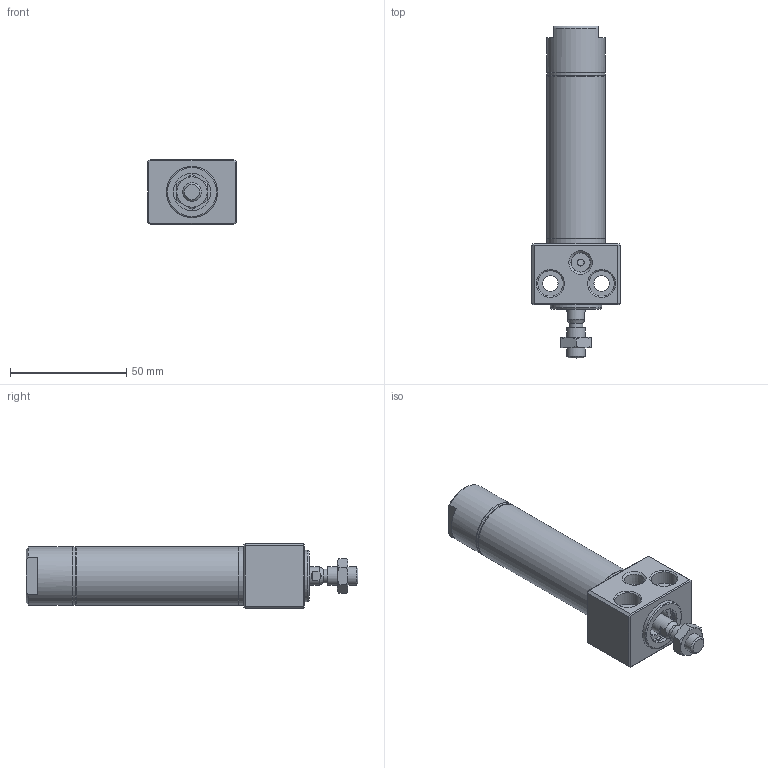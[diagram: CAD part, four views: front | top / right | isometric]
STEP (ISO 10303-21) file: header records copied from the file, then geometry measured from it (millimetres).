
FILE_DESCRIPTION((''),'2;1');
FILE_NAME('I:\3D電子目錄\氣缸\DBS\DBS\DBS20x25.stp','2007-10-08T08:30:35',('Administrator'),(''),'Autodesk Inventor 2008','Autodesk Inventor 2008','');
FILE_SCHEMA(('AUTOMOTIVE_DESIGN { 1 0 10303 214 1 1 1 1 }'));
Length unit declared in the file: millimetre
Products named in the file (1): DBS20x25
Bounding box: 38 x 142.6 x 28 mm (x, y, z)
Volume: 51475.6 mm3; surface area: 26134.4 mm2
Topology: 6 solids, 6 shells, 165 faces, 325 edges, 197 vertices
Faces by surface type: plane 73, cone 41, cylinder 36, bspline 12, torus 3
Full cylindrical faces by diameter (mm): 3 x1, 5 x1, 6 x3, 8 x3, 8.5 x1, 10 x1, 10.5 x2, 12 x3, 14.5 x2, 16 x2, 17 x1, 18 x2, 20 x1, 20.2 x2, 22 x1, 22.2 x6, 25 x4
Entity records: 4012 total; most frequent: CARTESIAN_POINT 924, DIRECTION 650, ORIENTED_EDGE 486, AXIS2_PLACEMENT_3D 287, EDGE_LOOP 282, EDGE_CURVE 243, VERTEX_POINT 189, FACE_OUTER_BOUND 165
